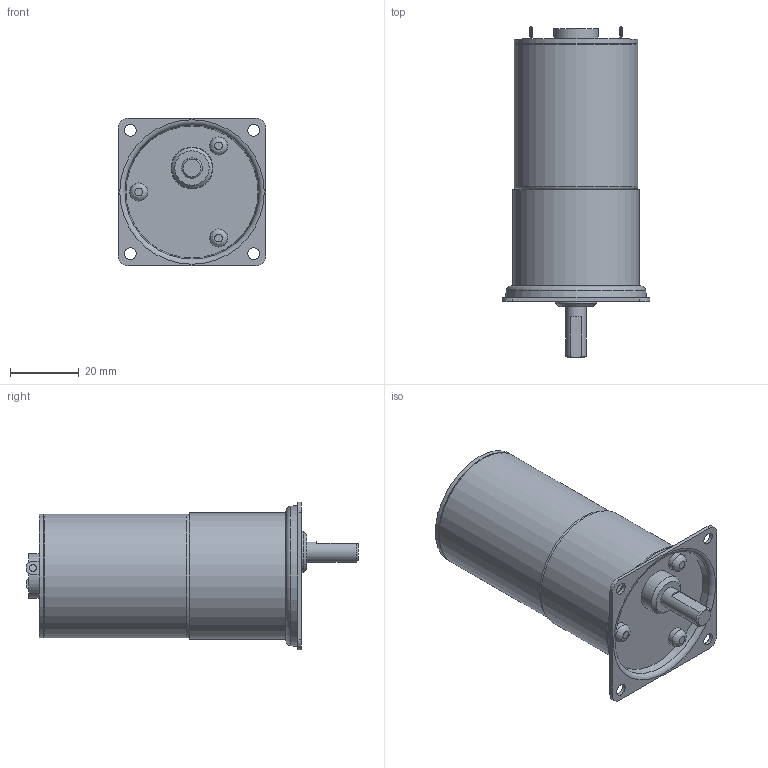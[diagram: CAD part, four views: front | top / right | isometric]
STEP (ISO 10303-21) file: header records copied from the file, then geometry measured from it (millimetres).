
FILE_DESCRIPTION((''),'2;1');
FILE_NAME('C:\Documents and Settings\SSEGAWA\デスクトップ\TP-3644D-PG-5.STP','2013-07-25T17:49:34',('SSEGAWA'),(''),'Autodesk Inventor 2010','Autodesk Inventor 2010','');
FILE_SCHEMA(('CONFIG_CONTROL_DESIGN'));
Length unit declared in the file: millimetre
Products named in the file (1): tp_3644dh_pg-5_Shrinkwrap_1
Bounding box: 43 x 96.8 x 43 mm (x, y, z)
Volume: 78201.5 mm3; surface area: 14693.1 mm2
Topology: 1 solids, 12 shells, 102 faces, 204 edges, 136 vertices
Faces by surface type: plane 46, cylinder 26, bspline 23, cone 4, torus 3
Full cylindrical faces by diameter (mm): 3 x1, 3.5 x1, 4 x3, 5.3 x3, 6 x1, 12 x1, 12.2 x1, 13 x1, 35.6 x1, 36 x2, 37 x1
Entity records: 2762 total; most frequent: CARTESIAN_POINT 828, DIRECTION 385, ORIENTED_EDGE 272, AXIS2_PLACEMENT_3D 171, EDGE_LOOP 169, EDGE_CURVE 136, VERTEX_POINT 113, STYLED_ITEM 103
